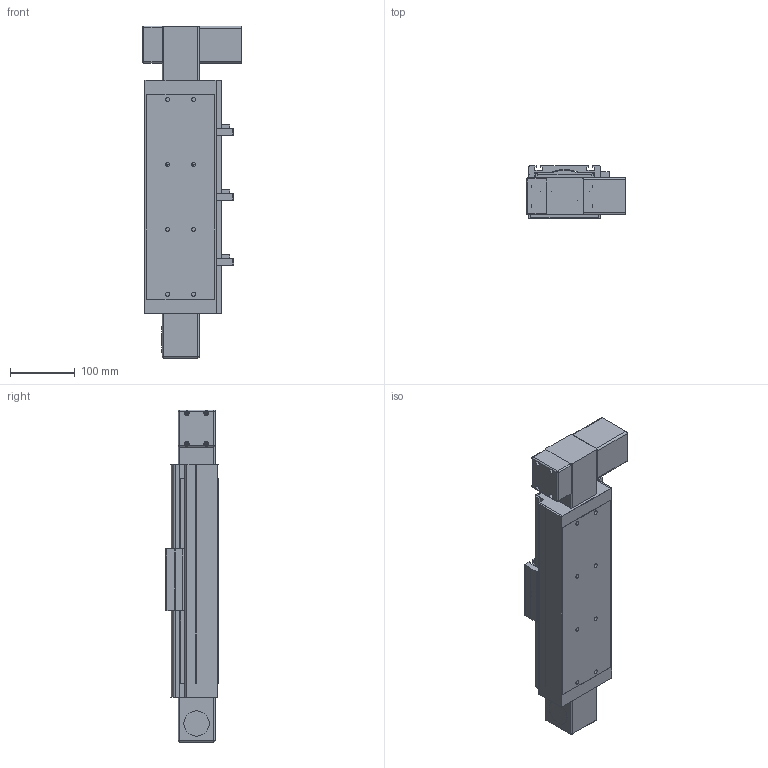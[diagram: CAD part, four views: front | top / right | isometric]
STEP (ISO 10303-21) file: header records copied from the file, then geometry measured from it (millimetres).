
FILE_DESCRIPTION((''),'2;1');
FILE_NAME('E:\uia actuator\UIA actuator 3d- 2015\Belt drive actuator\UIA110BR12(15)DC\UIA110BR12(15)DC-STEP FILE\UIA110BR12(15) stp file 13May16\UIA110BR12(15)DC-200-M23-P13-C10-S.stp','2016-05-13T14:43:47',('h029'),(''),'Autodesk Inventor 11','Autodesk Inventor 11','');
FILE_SCHEMA(('AUTOMOTIVE_DESIGN { 1 0 10303 214 1 1 1 1 }'));
Length unit declared in the file: millimetre
Products named in the file (11): UIA110BR12(15)DC-200; UIA110BR12(15)DC-200-body; UIA110BR12(15)DC-200-Sensor rail; UIA110B-Carriage; UIA110B- Sensor Flag; UIA110B-Cover; SOH-32C; SOH-32C-3; SOH-32C-1; SOH-32C-2; Motor mount
Assembly tree (10 placements, depth 3):
  UIA110BR12(15)DC-200
    UIA110BR12(15)DC-200-body
    UIA110BR12(15)DC-200-Sensor rail
    UIA110B-Carriage
    UIA110B- Sensor Flag
    UIA110B-Cover
    SOH-32C
      SOH-32C-3
      SOH-32C-1
      SOH-32C-2
    Motor mount
Bounding box: 152 x 81 x 511 mm (x, y, z)
Volume: 1977122.4 mm3; surface area: 478058.9 mm2
Topology: 9 solids, 13 shells, 708 faces, 1978 edges, 1276 vertices
Faces by surface type: plane 447, cylinder 171, cone 42, bspline 40, sphere 8
Full cylindrical faces by diameter (mm): 2.459 x4, 3 x2, 3.242 x8, 3.5 x4, 4 x10, 4.5 x4, 4.917 x8, 5 x2, 6.35 x1, 6.5 x8, 7.5 x4, 10 x3, 11 x8, 12 x1, 20 x2, 32 x3, 37 x1, 38.1 x1, 39 x2, 43.5 x1, 46 x2
Entity records: 23098 total; most frequent: CARTESIAN_POINT 5449, DIRECTION 3603, ORIENTED_EDGE 3462, EDGE_CURVE 1731, AXIS2_PLACEMENT_3D 1216, VERTEX_POINT 1192, VECTOR 1171, LINE 1171
